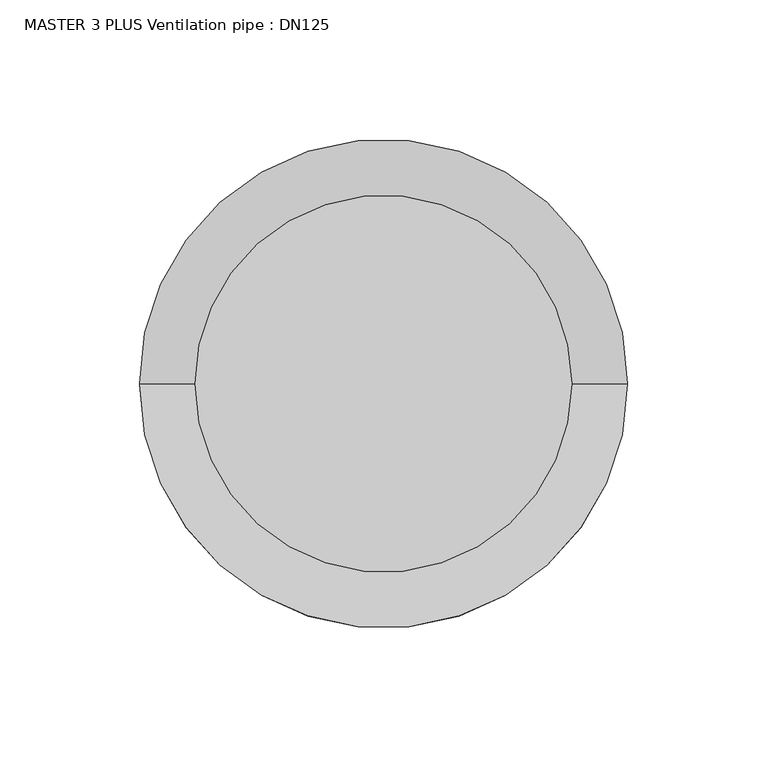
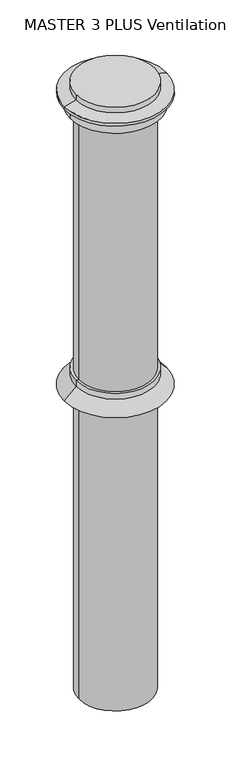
"""IFC4 building model written with IfcOpenShell, lengths in millimetres: valve geometry, MASTER 3 PLUS Ventilation pipe : DN125."""

from ifc_helpers import new_model, si_unit, frame, origin, origin_with_axes, place, context, project, spatial, polyline, circle_curve, source, transform, mapped, element, save
from ifc_brep_helpers import plane_surface, cylinder_surface, revolved_surface, advanced_brep


def master_3_plus_ventilation_pipe_dn125_9135e2b5(model_context):
    return source(origin(), model_context, "Body", "AdvancedBrep", [
        advanced_brep(
        [(67.5, 0.0, 1095.0), (-67.5, 0.0, 1095.0), (-62.5, 0.0, 0.0), (62.5, 0.0, 0.0), (62.5, 0.0, 1054.8236191), (-62.5, 0.0, 1054.8236191), (67.5, 0.0, 1085.0), (-67.5, 0.0, 1085.0), (87.5, 0.0, 1079.8236191), (-87.5, 0.0, 1079.8236191), (87.5, 0.0, 1074.8236191), (-87.5, 0.0, 1074.8236191), (77.5, 0.0, 1074.8236191), (-77.5, 0.0, 1074.8236191), (77.5, 0.0, 1054.8236191), (-77.5, 0.0, 1054.8236191)],
        [
            (0, 1, circle_curve(frame((0.0, 0.0, 1095.0), z_axis=(0.0, 0.0, 1.0), x_axis=(-1.0, 0.0, 0.0)), 67.5)),
            (1, 0, circle_curve(frame((0.0, 0.0, 1095.0), z_axis=(0.0, 0.0, 1.0), x_axis=(-1.0, 0.0, 0.0)), 67.5)),
            (2, 3, circle_curve(frame((0.0, 0.0, 0.0), z_axis=(0.0, 0.0, -1.0), x_axis=(1.0, 0.0, 0.0)), 62.5)),
            (3, 2, circle_curve(frame((0.0, 0.0, 0.0), z_axis=(0.0, 0.0, -1.0), x_axis=(1.0, 0.0, 0.0)), 62.5)),
            (3, 4),
            (4, 5, circle_curve(frame((0.0, 0.0, 1054.8236191), z_axis=(0.0, 0.0, -1.0), x_axis=(1.0, 0.0, 0.0)), 62.5)),
            (5, 2),
            (5, 4, circle_curve(frame((0.0, 0.0, 1054.8236191), z_axis=(0.0, 0.0, -1.0), x_axis=(1.0, 0.0, 0.0)), 62.5)),
            (6, 7, circle_curve(frame((0.0, 0.0, 1085.0), z_axis=(0.0, 0.0, 1.0), x_axis=(-1.0, 0.0, 0.0)), 67.5)),
            (7, 1),
            (0, 6),
            (7, 6, circle_curve(frame((0.0, 0.0, 1085.0), z_axis=(0.0, 0.0, 1.0), x_axis=(-1.0, 0.0, 0.0)), 67.5)),
            (6, 8),
            (8, 9, circle_curve(frame((0.0, 0.0, 1079.8236191), z_axis=(0.0, 0.0, 1.0), x_axis=(-1.0, 0.0, 0.0)), 87.5)),
            (9, 7),
            (9, 8, circle_curve(frame((0.0, 0.0, 1079.8236191), z_axis=(0.0, 0.0, 1.0), x_axis=(-1.0, 0.0, 0.0)), 87.5)),
            (8, 10),
            (10, 11, circle_curve(frame((0.0, 0.0, 1074.8236191), z_axis=(0.0, 0.0, 1.0), x_axis=(-1.0, 0.0, 0.0)), 87.5)),
            (11, 9),
            (11, 10, circle_curve(frame((0.0, 0.0, 1074.8236191), z_axis=(0.0, 0.0, 1.0), x_axis=(-1.0, 0.0, 0.0)), 87.5)),
            (10, 12),
            (12, 13, circle_curve(frame((0.0, 0.0, 1074.8236191), z_axis=(0.0, 0.0, 1.0), x_axis=(-1.0, 0.0, 0.0)), 77.5)),
            (13, 11),
            (13, 12, circle_curve(frame((0.0, 0.0, 1074.8236191), z_axis=(0.0, 0.0, 1.0), x_axis=(-1.0, 0.0, 0.0)), 77.5)),
            (12, 14),
            (14, 15, circle_curve(frame((0.0, 0.0, 1054.8236191), z_axis=(0.0, 0.0, 1.0), x_axis=(-1.0, 0.0, 0.0)), 77.5)),
            (15, 13),
            (15, 14, circle_curve(frame((0.0, 0.0, 1054.8236191), z_axis=(0.0, 0.0, 1.0), x_axis=(-1.0, 0.0, 0.0)), 77.5)),
            (14, 4),
            (5, 15),
        ],
        [
            plane_surface(frame((62.5, 0.0, 1095.0), z_axis=(0.0, 0.0, 1.0), x_axis=(0.0, 1.0, 0.0))),
            plane_surface(frame((62.5, 0.0, 0.0), z_axis=(0.0, 0.0, -1.0), x_axis=(0.0, -1.0, 0.0))),
            cylinder_surface(origin_with_axes(), 62.5),
            cylinder_surface(frame((0.0, 0.0, 1095.0), z_axis=(0.0, 0.0, -1.0), x_axis=(-1.0, 0.0, 0.0)), 67.5),
            revolved_surface(polyline([(-67.5, 0.0, 1085.0), (-87.5, 0.0, 1079.8236191)]), (0.0, 0.0, 1095.0), (0.0, 0.0, -1.0)),
            cylinder_surface(frame((0.0, 0.0, 1095.0), z_axis=(0.0, 0.0, -1.0), x_axis=(-1.0, 0.0, 0.0)), 87.5),
            plane_surface(frame((0.0, 0.0, 1074.8236191), z_axis=(0.0, 0.0, -1.0), x_axis=(-1.0, 0.0, 0.0))),
            cylinder_surface(frame((0.0, 0.0, 1095.0), z_axis=(0.0, 0.0, -1.0), x_axis=(-1.0, 0.0, 0.0)), 77.5),
            plane_surface(frame((0.0, 0.0, 1054.8236191), z_axis=(0.0, 0.0, -1.0), x_axis=(-1.0, 0.0, 0.0))),
        ],
        [
            (0, [[1, 2]]),
            (1, [[3, 4]]),
            (2, [[-4, 5, 6, 7]]),
            (2, [[-3, -7, 8, -5]]),
            (3, [[9, 10, -1, 11]]),
            (3, [[-10, 12, -11, -2]]),
            (4, [[-9, 13, 14, 15]]),
            (4, [[-12, -15, 16, -13]]),
            (5, [[-14, 17, 18, 19]]),
            (5, [[-16, -19, 20, -17]]),
            (6, [[-18, 21, 22, 23]]),
            (6, [[-20, -23, 24, -21]]),
            (7, [[-22, 25, 26, 27]]),
            (7, [[-24, -27, 28, -25]]),
            (8, [[-26, 29, -8, 30]]),
            (8, [[-28, -30, -6, -29]]),
        ],
    ),
        advanced_brep(
        [(67.5, 0.0, 567.5), (-67.5, 0.0, 567.5), (-67.5, 0.0, 577.5), (67.5, 0.0, 577.5), (87.5, 0.0, 547.5), (-87.5, 0.0, 547.5), (0.0, 0.0, 547.5), (0.0, 0.0, 577.5)],
        [
            (0, 1, circle_curve(frame((0.0, 0.0, 567.5), z_axis=(0.0, 0.0, 1.0), x_axis=(-1.0, 0.0, 0.0)), 67.5)),
            (1, 2),
            (2, 3, circle_curve(frame((0.0, 0.0, 577.5), z_axis=(0.0, 0.0, -1.0), x_axis=(-1.0, 0.0, 0.0)), 67.5)),
            (3, 0),
            (1, 0, circle_curve(frame((0.0, 0.0, 567.5), z_axis=(0.0, 0.0, 1.0), x_axis=(-1.0, 0.0, 0.0)), 67.5)),
            (3, 2, circle_curve(frame((0.0, 0.0, 577.5), z_axis=(0.0, 0.0, -1.0), x_axis=(-1.0, 0.0, 0.0)), 67.5)),
            (4, 5, circle_curve(frame((0.0, 0.0, 547.5), z_axis=(0.0, 0.0, 1.0), x_axis=(-1.0, 0.0, 0.0)), 87.5)),
            (5, 1),
            (0, 4),
            (5, 4, circle_curve(frame((0.0, 0.0, 547.5), z_axis=(0.0, 0.0, 1.0), x_axis=(-1.0, 0.0, 0.0)), 87.5)),
            (6, 5),
            (4, 6),
            (2, 7),
            (7, 3),
        ],
        [
            cylinder_surface(frame((0.0, 0.0, 577.5), z_axis=(0.0, 0.0, -1.0), x_axis=(-1.0, 0.0, 0.0)), 67.5),
            revolved_surface(polyline([(-67.5, 0.0, 567.5), (-87.5, 0.0, 547.5)]), (0.0, 0.0, 577.5), (0.0, 0.0, -1.0)),
            plane_surface(frame((0.0, 0.0, 547.5), z_axis=(0.0, 0.0, -1.0), x_axis=(-1.0, 0.0, 0.0))),
            plane_surface(frame((0.0, 0.0, 577.5), z_axis=(0.0, 0.0, 1.0), x_axis=(-1.0, 0.0, 0.0))),
        ],
        [
            (0, [[1, 2, 3, 4]]),
            (0, [[5, -4, 6, -2]]),
            (1, [[7, 8, -1, 9]]),
            (1, [[10, -9, -5, -8]]),
            (2, [[11, -7, 12]]),
            (2, [[-12, -10, -11]]),
            (3, [[-3, 13, 14]]),
            (3, [[-6, -14, -13]]),
        ],
    ),
    ])


if __name__ == "__main__":
    model = new_model("IFC4")
    model_context = context("Model", 3, world=origin())
    ifc_project = project(units=[si_unit("LENGTHUNIT", "METRE", prefix="MILLI")], contexts=[model_context])
    site = spatial("IfcSite", under=ifc_project)
    building = spatial("IfcBuilding", under=site)
    placement = place(None, origin())
    master_3_plus_ventilation_pipe_dn125_shape = master_3_plus_ventilation_pipe_dn125_9135e2b5(model_context)
    element("IfcValve", 1, ObjectType="MASTER 3 PLUS Ventilation pipe : DN125", at=placement, inside=building, context=model_context, shape_type="MappedRepresentation", body=[
        mapped(master_3_plus_ventilation_pipe_dn125_shape, transform((0.0, 0.0, 0.0), x_axis=(1.0, 0.0, 0.0), y_axis=(0.0, 1.0, 0.0), z_axis=(0.0, 0.0, 1.0))),
    ])
    save(model, "model.ifc")
